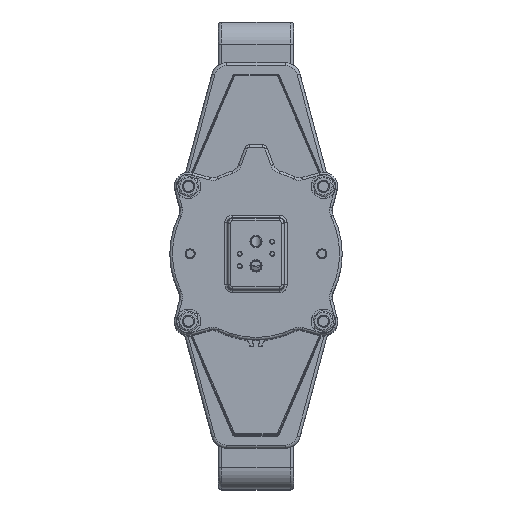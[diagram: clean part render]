
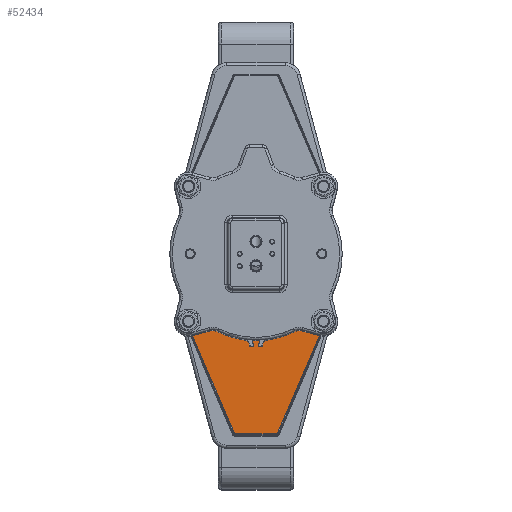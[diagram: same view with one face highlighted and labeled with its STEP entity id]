
A CAD part, top view. The second image highlights one B-rep face of the part: STEP entity #52434.
In plain terms, the highlighted planar face has unit normal (0, 0, 1).
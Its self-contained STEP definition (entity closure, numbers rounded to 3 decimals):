
#5743=LINE('',#133524,#8828);
#5748=LINE('',#133543,#8833);
#5752=LINE('',#133550,#8837);
#5762=LINE('',#133570,#8847);
#5769=LINE('',#133583,#8854);
#5770=LINE('',#133585,#8855);
#5771=LINE('',#133586,#8856);
#5772=LINE('',#133587,#8857);
#8828=VECTOR('',#73687,1.);
#8833=VECTOR('',#73704,1.);
#8837=VECTOR('',#73710,1.);
#8847=VECTOR('',#73726,1.);
#8854=VECTOR('',#73737,1.);
#8855=VECTOR('',#73738,1.);
#8856=VECTOR('',#73739,1.);
#8857=VECTOR('',#73740,1.);
#12821=FACE_OUTER_BOUND('',#16235,.T.);
#16235=EDGE_LOOP('',(#47096,#47097,#47098,#47099,#47100,#47101,#47102,#47103));
#24534=VERTEX_POINT('',#133521);
#24535=VERTEX_POINT('',#133523);
#24542=VERTEX_POINT('',#133540);
#24545=VERTEX_POINT('',#133549);
#24551=VERTEX_POINT('',#133567);
#24552=VERTEX_POINT('',#133569);
#24556=VERTEX_POINT('',#133582);
#24557=VERTEX_POINT('',#133584);
#32164=EDGE_CURVE('',#24535,#24534,#5743,.T.);
#32173=EDGE_CURVE('',#24534,#24542,#5748,.T.);
#32177=EDGE_CURVE('',#24535,#24545,#5752,.T.);
#32187=EDGE_CURVE('',#24551,#24552,#5762,.T.);
#32194=EDGE_CURVE('',#24542,#24556,#5769,.T.);
#32195=EDGE_CURVE('',#24557,#24556,#5770,.T.);
#32196=EDGE_CURVE('',#24552,#24557,#5771,.T.);
#32197=EDGE_CURVE('',#24551,#24545,#5772,.T.);
#47096=ORIENTED_EDGE('',*,*,#32173,.T.);
#47097=ORIENTED_EDGE('',*,*,#32194,.T.);
#47098=ORIENTED_EDGE('',*,*,#32195,.F.);
#47099=ORIENTED_EDGE('',*,*,#32196,.F.);
#47100=ORIENTED_EDGE('',*,*,#32187,.F.);
#47101=ORIENTED_EDGE('',*,*,#32197,.T.);
#47102=ORIENTED_EDGE('',*,*,#32177,.F.);
#47103=ORIENTED_EDGE('',*,*,#32164,.T.);
#49492=PLANE('',#58634);
#52434=ADVANCED_FACE('',(#12821),#49492,.T.);
#58634=AXIS2_PLACEMENT_3D('',#133581,#73735,#73736);
#73687=DIRECTION('',(1.,0.,0.));
#73704=DIRECTION('',(0.,1.,0.));
#73710=DIRECTION('',(0.,1.,0.));
#73726=DIRECTION('',(0.,1.,0.));
#73735=DIRECTION('center_axis',(0.,0.,
1.));
#73736=DIRECTION('ref_axis',(0.,1.,0.));
#73737=DIRECTION('',(0.395,0.919,0.));
#73738=DIRECTION('',(0.,-1.,0.));
#73739=DIRECTION('',(1.,0.,0.));
#73740=DIRECTION('',(0.395,-0.919,0.));
#133521=CARTESIAN_POINT('',(20.911,-176.552,674.7));
#133523=CARTESIAN_POINT('',(-21.089,-176.552,674.7));
#133524=CARTESIAN_POINT('',(-21.089,-176.552,674.7));
#133540=CARTESIAN_POINT('',(20.911,-176.502,674.7));
#133543=CARTESIAN_POINT('',(20.911,-176.552,674.7));
#133549=CARTESIAN_POINT('',(-21.089,-176.502,674.7));
#133550=CARTESIAN_POINT('',(-21.089,-176.552,674.7));
#133567=CARTESIAN_POINT('',(-67.089,-69.502,674.7));
#133569=CARTESIAN_POINT('',(-67.089,-59.552,674.7));
#133570=CARTESIAN_POINT('',(-67.089,-176.502,674.7));
#133581=CARTESIAN_POINT('Origin',(66.911,-176.502,674.7));
#133582=CARTESIAN_POINT('',(66.911,-69.502,674.7));
#133583=CARTESIAN_POINT('',(28.087,-159.811,674.7));
#133584=CARTESIAN_POINT('',(66.911,-59.552,674.7));
#133585=CARTESIAN_POINT('',(66.911,-59.552,674.7));
#133586=CARTESIAN_POINT('',(20.911,-59.552,674.7));
#133587=CARTESIAN_POINT('',(-7.362,-208.432,674.7));
